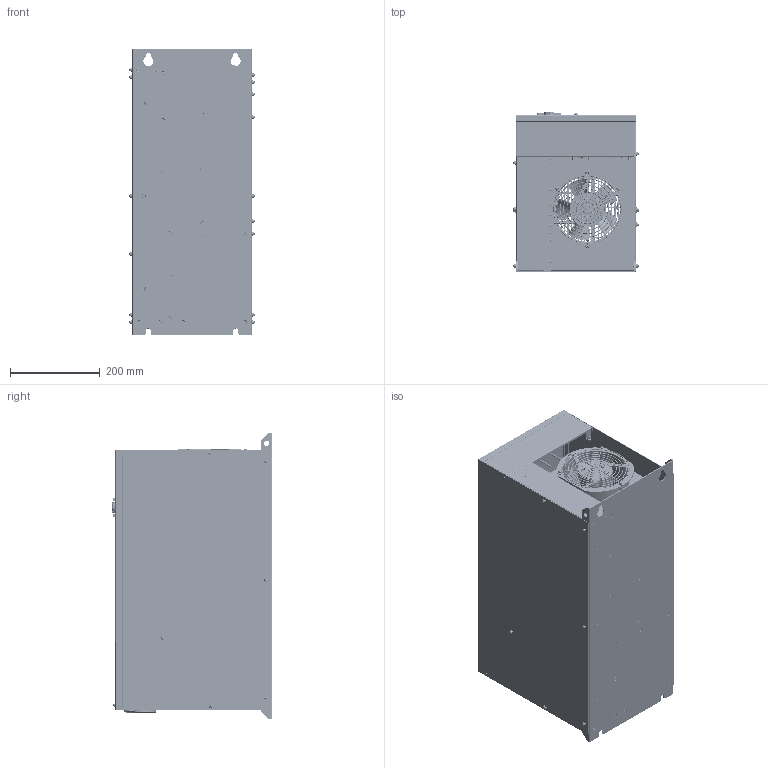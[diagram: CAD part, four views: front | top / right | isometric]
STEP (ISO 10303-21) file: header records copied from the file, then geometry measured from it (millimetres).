
FILE_DESCRIPTION(/* description */ (''),/* implementation_level */ '2;1');
FILE_NAME(/* name */ 'C:\Users\U390257\OneDrive - Danfoss\Documents\Работа\Текущие задачи\2022.04.26 Veichi 3D\Готовые модели\ac300-t3-090_110-3d\ac300-t3-090_110-3d.stp',/* time_stamp */ '2022-04-28T12:25:23+03:00',/* author */ ('U390257'),/* organization */ (''),/* preprocessor_version */ 'ST-DEVELOPER v18.1',/* originating_system */ 'Autodesk Inventor 2020',/* authorisation */ '');
FILE_SCHEMA (('AUTOMOTIVE_DESIGN { 1 0 10303 214 3 1 1 }'));
Products named in the file (29): ac300-t3-090_110-3d; AC300-T3-110G-D_ASM; AC300-T3-110G-P_ASM; ASM0001_ASM; AC300-T3-110G-P021_ASM; AC300-T3-110G-C_ASM; AC300-T3-110G-DS_ASM; M4X60_GB9074_8; M6X16_GB9074_13; M8X25_GB9074_13; M4X35_GB9074_8; M10_GB97_1; M10_GB93_87; M10_GB6170; M4X10_GB819_1; M4X12_GB9074_8; M3X8_GB9074_8; M6X14_GB9074_8; M6X16_GB9074_8; M5X12_GB9074_8; M4X10_GB9074_8; VEDAVFD; display_2; knopka_pusk; knopka_stop; knopka_prg2; knopka_jog_rev; tablichka3_gc_v_a; gc_v_a
Assembly tree (152 placements, depth 3):
  ac300-t3-090_110-3d
    AC300-T3-110G-D_ASM
    AC300-T3-110G-P_ASM
      ASM0001_ASM
      AC300-T3-110G-P021_ASM
    AC300-T3-110G-C_ASM
    AC300-T3-110G-DS_ASM
      M6X14_GB9074_8  x25
      M4X10_GB9074_8  x41
      M4X60_GB9074_8  x3
      M6X16_GB9074_13  x2
      M8X25_GB9074_13  x8
      M5X12_GB9074_8  x16
      M4X35_GB9074_8  x2
      M10_GB97_1  x2
      M10_GB93_87  x2
      M10_GB6170  x2
      M4X10_GB819_1
      M3X8_GB9074_8  x6
      M4X12_GB9074_8  x10
      M6X16_GB9074_8  x18
    VEDAVFD
    display_2
      knopka_pusk
      knopka_stop
      knopka_prg2
      knopka_jog_rev
    tablichka3_gc_v_a
      gc_v_a
Bounding box: 279.38 x 357.97 x 638 mm (x, y, z)
Volume: 2949879.7 mm3; surface area: 3515038.6 mm2
Topology: 348 solids, 489 shells, 23442 faces, 62685 edges, 41602 vertices
Faces by surface type: plane 16386, cylinder 3332, bspline 2578, cone 466, torus 428, sphere 252
Full cylindrical faces by diameter (mm): 0.1 x4, 0.5 x8, 0.8 x30, 0.9 x8, 1 x19, 1.08 x1, 1.2 x2, 1.5 x4, 1.6 x2, 1.625 x2, 1.8 x8, 2 x86, 2.2 x12, 2.5 x57, 2.6 x6, 2.65 x12, 3 x19, 3.2 x3, 3.5 x75, 3.6 x28, 3.8 x20, 4 x127, 4.2 x34, 4.39 x2, 4.5 x32, 4.99 x4, 5 x99, 5.38 x28, 5.39 x6, 5.4 x38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
Entity records: 706346 total; most frequent: CARTESIAN_POINT 188419, ORIENTED_EDGE 109128, DIRECTION 98520, EDGE_CURVE 54586, LINE 39920, VECTOR 39920, VERTEX_POINT 35960, AXIS2_PLACEMENT_3D 29300
